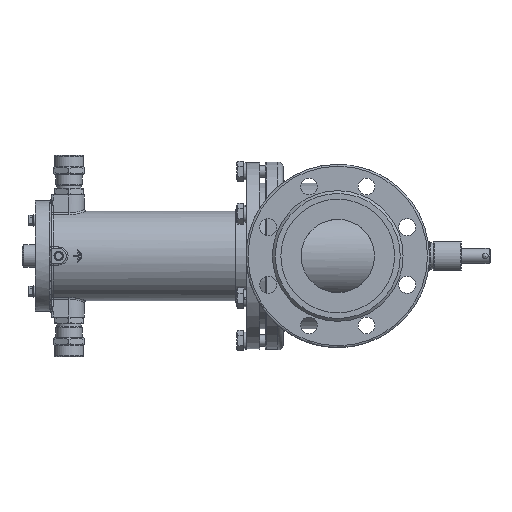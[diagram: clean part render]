
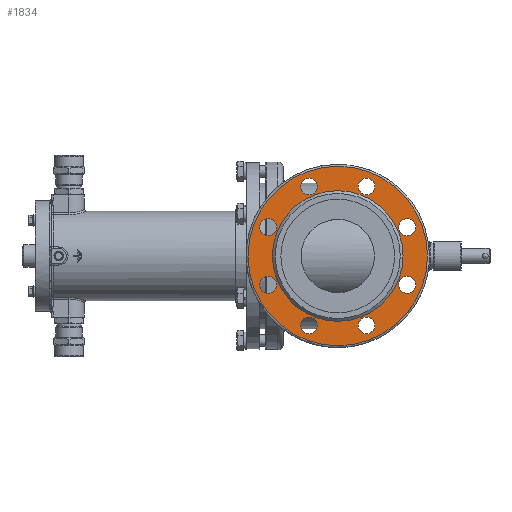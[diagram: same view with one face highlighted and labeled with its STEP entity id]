
A CAD part, left-side view. The second image highlights one B-rep face of the part: STEP entity #1834.
In plain terms, the highlighted planar face has unit normal (-1, 0, 0).
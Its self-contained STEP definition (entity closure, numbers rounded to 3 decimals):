
#1834=ADVANCED_FACE('',(#20698,#20700,#20702,#20704,#20706,#20708,#20710,#20712,
#20714,#20716),#20718,.T.);
#20698=FACE_BOUND('',#20699,.T.);
#20699=EDGE_LOOP('',(#31472));
#20700=FACE_BOUND('',#20701,.T.);
#20701=EDGE_LOOP('',(#31473));
#20702=FACE_BOUND('',#20703,.T.);
#20703=EDGE_LOOP('',(#31474));
#20704=FACE_BOUND('',#20705,.T.);
#20705=EDGE_LOOP('',(#31475));
#20706=FACE_BOUND('',#20707,.T.);
#20707=EDGE_LOOP('',(#31476));
#20708=FACE_BOUND('',#20709,.T.);
#20709=EDGE_LOOP('',(#31477));
#20710=FACE_BOUND('',#20711,.T.);
#20711=EDGE_LOOP('',(#31478));
#20712=FACE_BOUND('',#20713,.T.);
#20713=EDGE_LOOP('',(#31479));
#20714=FACE_BOUND('',#20715,.T.);
#20715=EDGE_LOOP('',(#31480));
#20716=FACE_OUTER_BOUND('',#20717,.T.);
#20717=EDGE_LOOP('',(#31481));
#20718=PLANE('',#20719);
#20719=AXIS2_PLACEMENT_3D('',#20720,#20721,#20722);
#20720=CARTESIAN_POINT('',(-151.,0.,0.));
#20721=DIRECTION('',(-1.,0.,0.));
#20722=DIRECTION('',(0.,1.,0.));
#31472=ORIENTED_EDGE('',*,*,#38937,.T.);
#31473=ORIENTED_EDGE('',*,*,#38935,.T.);
#31474=ORIENTED_EDGE('',*,*,#38933,.T.);
#31475=ORIENTED_EDGE('',*,*,#38931,.T.);
#31476=ORIENTED_EDGE('',*,*,#38929,.T.);
#31477=ORIENTED_EDGE('',*,*,#38927,.T.);
#31478=ORIENTED_EDGE('',*,*,#38925,.T.);
#31479=ORIENTED_EDGE('',*,*,#38923,.T.);
#31480=ORIENTED_EDGE('',*,*,#38962,.F.);
#31481=ORIENTED_EDGE('',*,*,#38963,.T.);
#38923=EDGE_CURVE('',#46936,#46936,#46938,.T.);
#38925=EDGE_CURVE('',#46939,#46939,#46941,.T.);
#38927=EDGE_CURVE('',#46942,#46942,#46944,.T.);
#38929=EDGE_CURVE('',#46945,#46945,#46947,.T.);
#38931=EDGE_CURVE('',#46948,#46948,#46950,.T.);
#38933=EDGE_CURVE('',#46951,#46951,#46953,.T.);
#38935=EDGE_CURVE('',#46954,#46954,#46956,.T.);
#38937=EDGE_CURVE('',#46957,#46957,#46959,.T.);
#38962=EDGE_CURVE('',#46998,#46998,#46999,.T.);
#38963=EDGE_CURVE('',#47000,#47000,#47001,.T.);
#46936=VERTEX_POINT('',#75332);
#46938=CIRCLE('',#75336,9.);
#46939=VERTEX_POINT('',#75340);
#46941=CIRCLE('',#75344,9.);
#46942=VERTEX_POINT('',#75348);
#46944=CIRCLE('',#75352,9.);
#46945=VERTEX_POINT('',#75356);
#46947=CIRCLE('',#75360,9.);
#46948=VERTEX_POINT('',#75364);
#46950=CIRCLE('',#75368,9.);
#46951=VERTEX_POINT('',#75372);
#46953=CIRCLE('',#75376,9.);
#46954=VERTEX_POINT('',#75380);
#46956=CIRCLE('',#75384,9.);
#46957=VERTEX_POINT('',#75388);
#46959=CIRCLE('',#75392,9.);
#46998=VERTEX_POINT('',#75697);
#46999=CIRCLE('',#75698,69.5);
#47000=VERTEX_POINT('',#75702);
#47001=CIRCLE('',#75703,95.5);
#75332=CARTESIAN_POINT('',(-151.,30.615,64.91));
#75336=AXIS2_PLACEMENT_3D('',#75337,#75338,#75339);
#75337=CARTESIAN_POINT('',(-151.,30.615,73.91));
#75338=DIRECTION('',(1.,0.,0.));
#75339=DIRECTION('',(0.,-1.,0.));
#75340=CARTESIAN_POINT('',(-151.,30.615,-82.91));
#75344=AXIS2_PLACEMENT_3D('',#75345,#75346,#75347);
#75345=CARTESIAN_POINT('',(-151.,30.615,-73.91));
#75346=DIRECTION('',(1.,0.,0.));
#75347=DIRECTION('',(0.,-1.,0.));
#75348=CARTESIAN_POINT('',(-151.,73.91,21.615));
#75352=AXIS2_PLACEMENT_3D('',#75353,#75354,#75355);
#75353=CARTESIAN_POINT('',(-151.,73.91,30.615));
#75354=DIRECTION('',(1.,0.,0.));
#75355=DIRECTION('',(0.,-1.,0.));
#75356=CARTESIAN_POINT('',(-151.,-30.615,-82.91));
#75360=AXIS2_PLACEMENT_3D('',#75361,#75362,#75363);
#75361=CARTESIAN_POINT('',(-151.,-30.615,-73.91));
#75362=DIRECTION('',(1.,0.,0.));
#75363=DIRECTION('',(0.,-1.,0.));
#75364=CARTESIAN_POINT('',(-151.,-73.91,21.615));
#75368=AXIS2_PLACEMENT_3D('',#75369,#75370,#75371);
#75369=CARTESIAN_POINT('',(-151.,-73.91,30.615));
#75370=DIRECTION('',(1.,0.,0.));
#75371=DIRECTION('',(0.,-1.,0.));
#75372=CARTESIAN_POINT('',(-151.,-30.615,64.91));
#75376=AXIS2_PLACEMENT_3D('',#75377,#75378,#75379);
#75377=CARTESIAN_POINT('',(-151.,-30.615,73.91));
#75378=DIRECTION('',(1.,0.,0.));
#75379=DIRECTION('',(0.,-1.,0.));
#75380=CARTESIAN_POINT('',(-151.,73.91,-39.615));
#75384=AXIS2_PLACEMENT_3D('',#75385,#75386,#75387);
#75385=CARTESIAN_POINT('',(-151.,73.91,-30.615));
#75386=DIRECTION('',(1.,0.,0.));
#75387=DIRECTION('',(0.,-1.,0.));
#75388=CARTESIAN_POINT('',(-151.,-73.91,-39.615));
#75392=AXIS2_PLACEMENT_3D('',#75393,#75394,#75395);
#75393=CARTESIAN_POINT('',(-151.,-73.91,-30.615));
#75394=DIRECTION('',(1.,0.,0.));
#75395=DIRECTION('',(0.,-1.,0.));
#75697=CARTESIAN_POINT('',(-151.,-69.5,0.));
#75698=AXIS2_PLACEMENT_3D('',#75699,#75700,#75701);
#75699=CARTESIAN_POINT('',(-151.,0.,0.));
#75700=DIRECTION('',(-1.,0.,0.));
#75701=DIRECTION('',(0.,1.,0.));
#75702=CARTESIAN_POINT('',(-151.,-95.5,0.));
#75703=AXIS2_PLACEMENT_3D('',#75704,#75705,#75706);
#75704=CARTESIAN_POINT('',(-151.,0.,0.));
#75705=DIRECTION('',(-1.,0.,0.));
#75706=DIRECTION('',(0.,1.,0.));
